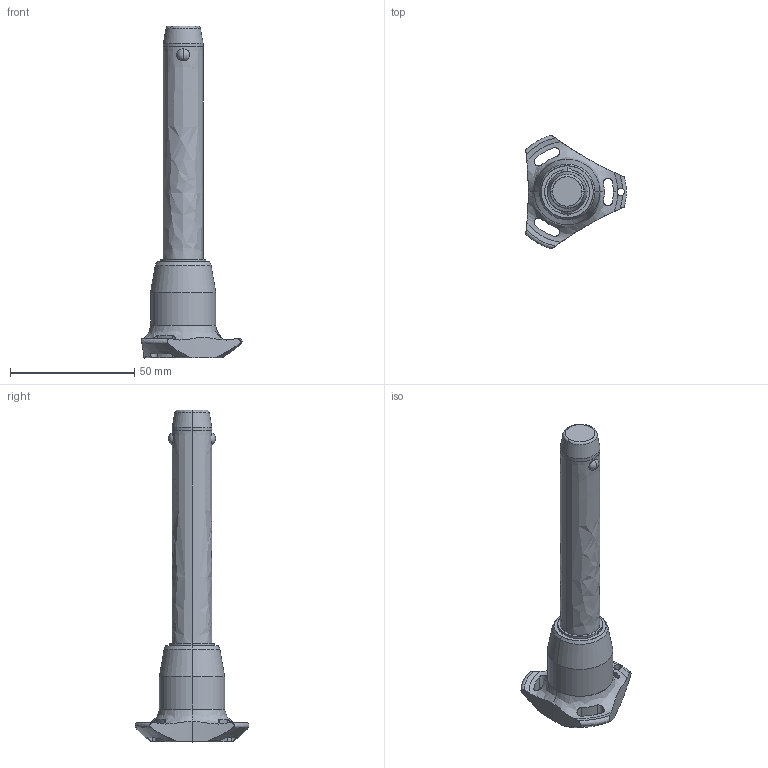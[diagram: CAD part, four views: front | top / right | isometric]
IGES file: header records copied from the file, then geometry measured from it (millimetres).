
Start section: SolidWorks IGES file using analytic representation for surfaces
Global section: file name: C:\Users\ianosborn\Desktop\QR1726_v2\QR1726_v2_20251115_IGES\QR1726.M16-080-T.igs; native system: SolidWorks 2019; preprocessor: SolidWorks 2019; author: IanOsborn; date: 251113.112042; units: millimetre
Bounding box: 40.5 x 45.88 x 133.7 mm (x, y, z)
Surface area: 10680.1 mm2 (no closed solid volume)
Topology: 0 solids, 0 shells, 68 faces, 1451 edges, 1447 vertices
Faces by surface type: revolution 52, bspline 16
